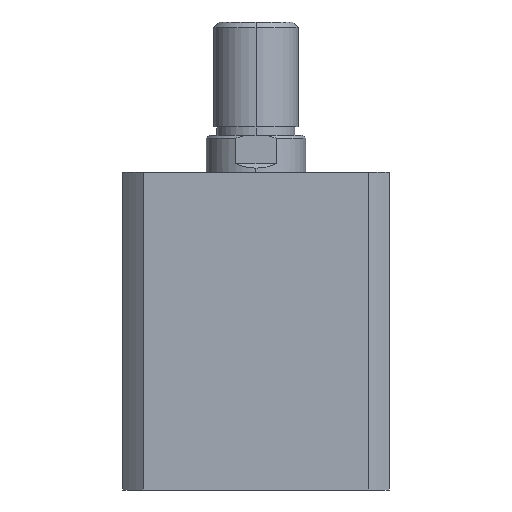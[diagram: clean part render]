
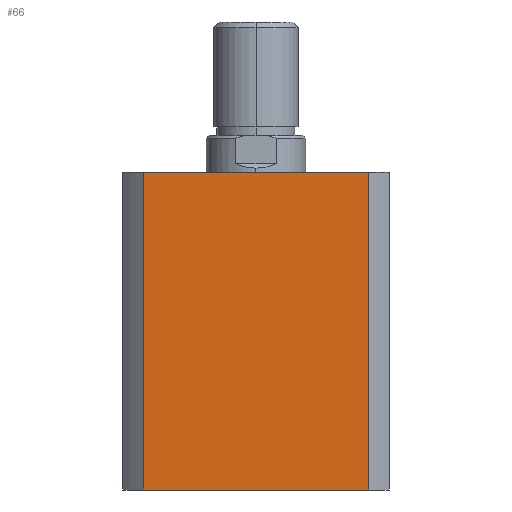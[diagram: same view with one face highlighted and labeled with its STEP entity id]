
A CAD part, left-side view. The second image highlights one B-rep face of the part: STEP entity #66.
In plain terms, the highlighted planar face has unit normal (-1, 0, 0).
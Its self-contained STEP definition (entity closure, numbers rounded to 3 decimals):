
#66 = ADVANCED_FACE ( 'NONE', ( #2331 ), #1780, .F. ) ;
#327 = CARTESIAN_POINT ( 'NONE',  ( -47., 39.664, 112. ) ) ;
#328 = CARTESIAN_POINT ( 'NONE',  ( -47., -39.664, 112. ) ) ;
#347 = CARTESIAN_POINT ( 'NONE',  ( -47., 39.664, 0. ) ) ;
#348 = CARTESIAN_POINT ( 'NONE',  ( -47., -39.664, 0. ) ) ;
#745 = DIRECTION ( 'NONE',  ( 0., 0., -1. ) ) ;
#752 = CARTESIAN_POINT ( 'NONE',  ( -47., 39.664, 112. ) ) ;
#754 = CARTESIAN_POINT ( 'NONE',  ( -47., 0., 0. ) ) ;
#759 = DIRECTION ( 'NONE',  ( 0., -1., 0. ) ) ;
#760 = CARTESIAN_POINT ( 'NONE',  ( -47., -39.664, 112. ) ) ;
#762 = DIRECTION ( 'NONE',  ( 0., 0., -1. ) ) ;
#1644 = LINE ( 'NONE', #4273, #1646 ) ;
#1646 = VECTOR ( 'NONE', #4268, 1000. ) ;
#1780 = PLANE ( 'NONE',  #4592 ) ;
#1781 = CARTESIAN_POINT ( 'NONE',  ( -47., 0., 112. ) ) ;
#1782 = DIRECTION ( 'NONE',  ( 1., 0., 0. ) ) ;
#1783 = DIRECTION ( 'NONE',  ( 0., 0., -1. ) ) ;
#2112 = ORIENTED_EDGE ( 'NONE', *, *, #4511, .T. ) ;
#2113 = ORIENTED_EDGE ( 'NONE', *, *, #4512, .F. ) ;
#2114 = ORIENTED_EDGE ( 'NONE', *, *, #4477, .F. ) ;
#2115 = ORIENTED_EDGE ( 'NONE', *, *, #4510, .T. ) ;
#2331 = FACE_OUTER_BOUND ( 'NONE', #2957, .T. ) ;
#2957 = EDGE_LOOP ( 'NONE', ( #2112, #2113, #2114, #2115 ) ) ;
#3876 = LINE ( 'NONE', #754, #3883 ) ;
#3878 = LINE ( 'NONE', #752, #3881 ) ;
#3881 = VECTOR ( 'NONE', #745, 1000. ) ;
#3882 = LINE ( 'NONE', #760, #3885 ) ;
#3883 = VECTOR ( 'NONE', #759, 1000. ) ;
#3885 = VECTOR ( 'NONE', #762, 1000. ) ;
#4268 = DIRECTION ( 'NONE',  ( 0., -1., 0. ) ) ;
#4273 = CARTESIAN_POINT ( 'NONE',  ( -47., 0., 112. ) ) ;
#4477 = EDGE_CURVE ( 'NONE', #5058, #5059, #1644, .T. ) ;
#4510 = EDGE_CURVE ( 'NONE', #5058, #5078, #3878, .T. ) ;
#4511 = EDGE_CURVE ( 'NONE', #5078, #5079, #3876, .T. ) ;
#4512 = EDGE_CURVE ( 'NONE', #5059, #5079, #3882, .T. ) ;
#4592 = AXIS2_PLACEMENT_3D ( 'NONE', #1781, #1782, #1783 ) ;
#5058 = VERTEX_POINT ( 'NONE', #327 ) ;
#5059 = VERTEX_POINT ( 'NONE', #328 ) ;
#5078 = VERTEX_POINT ( 'NONE', #347 ) ;
#5079 = VERTEX_POINT ( 'NONE', #348 ) ;
